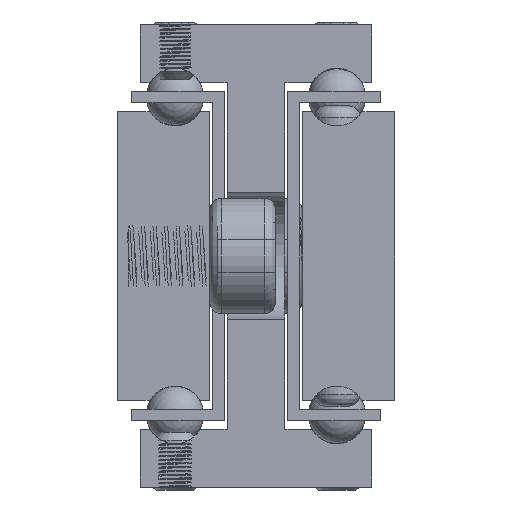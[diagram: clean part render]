
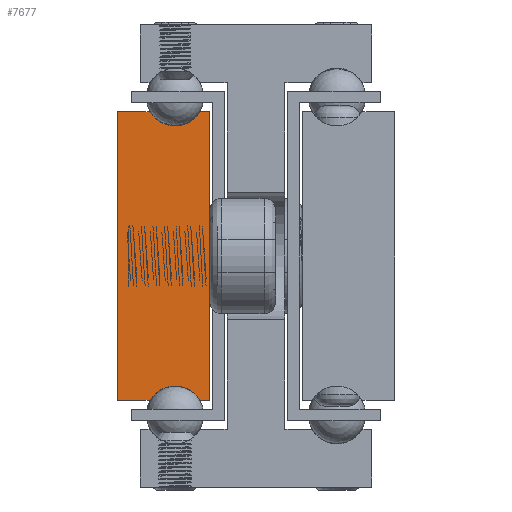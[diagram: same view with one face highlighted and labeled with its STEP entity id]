
A CAD part, front view. The second image highlights one B-rep face of the part: STEP entity #7677.
In plain terms, the highlighted planar face has unit normal (0, -1, 0).
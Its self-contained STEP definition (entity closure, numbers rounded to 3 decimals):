
#502=LINE('',#10724,#1192);
#505=LINE('',#10730,#1195);
#509=LINE('',#10742,#1199);
#512=LINE('',#10748,#1202);
#515=LINE('',#10754,#1205);
#519=LINE('',#10764,#1209);
#1192=VECTOR('',#8834,1.);
#1195=VECTOR('',#8839,1.);
#1199=VECTOR('',#8851,1.);
#1202=VECTOR('',#8856,1.);
#1205=VECTOR('',#8861,1.);
#1209=VECTOR('',#8873,1.);
#1887=PLANE('',#8229);
#2343=FACE_OUTER_BOUND('',#2829,.T.);
#2829=EDGE_LOOP('',(#5528,#5529,#5530,#5531,#5532,#5533,#5534,#5535));
#3445=CIRCLE('',#8220,2.5);
#3447=CIRCLE('',#8226,2.5);
#3628=VERTEX_POINT('',#10721);
#3629=VERTEX_POINT('',#10723);
#3631=VERTEX_POINT('',#10729);
#3633=VERTEX_POINT('',#10735);
#3635=VERTEX_POINT('',#10741);
#3637=VERTEX_POINT('',#10747);
#3639=VERTEX_POINT('',#10753);
#3641=VERTEX_POINT('',#10759);
#4418=EDGE_CURVE('',#3629,#3628,#502,.T.);
#4421=EDGE_CURVE('',#3631,#3629,#505,.T.);
#4424=EDGE_CURVE('',#3633,#3631,#3445,.T.);
#4427=EDGE_CURVE('',#3635,#3633,#509,.T.);
#4430=EDGE_CURVE('',#3637,#3635,#512,.T.);
#4433=EDGE_CURVE('',#3639,#3637,#515,.T.);
#4436=EDGE_CURVE('',#3641,#3639,#3447,.T.);
#4439=EDGE_CURVE('',#3628,#3641,#519,.T.);
#5528=ORIENTED_EDGE('',*,*,#4439,.T.);
#5529=ORIENTED_EDGE('',*,*,#4436,.T.);
#5530=ORIENTED_EDGE('',*,*,#4433,.T.);
#5531=ORIENTED_EDGE('',*,*,#4430,.T.);
#5532=ORIENTED_EDGE('',*,*,#4427,.T.);
#5533=ORIENTED_EDGE('',*,*,#4424,.T.);
#5534=ORIENTED_EDGE('',*,*,#4421,.T.);
#5535=ORIENTED_EDGE('',*,*,#4418,.T.);
#7677=ADVANCED_FACE('',(#2343),#1887,.T.);
#8220=AXIS2_PLACEMENT_3D('',#10736,#8845,#8846);
#8226=AXIS2_PLACEMENT_3D('',#10760,#8867,#8868);
#8229=AXIS2_PLACEMENT_3D('',#10766,#8876,#8877);
#8834=DIRECTION('',(0.,0.,-1.));
#8839=DIRECTION('',(-1.,0.,0.));
#8845=DIRECTION('center_axis',(0.,1.,0.));
#8846=DIRECTION('ref_axis',(-0.866,0.,-0.5));
#8851=DIRECTION('',(-1.,0.,0.));
#8856=DIRECTION('',(0.,0.,1.));
#8861=DIRECTION('',(1.,0.,0.));
#8867=DIRECTION('center_axis',(0.,1.,0.));
#8868=DIRECTION('ref_axis',(0.866,0.,0.5));
#8873=DIRECTION('',(1.,0.,0.));
#8876=DIRECTION('center_axis',(0.,-1.,0.));
#8877=DIRECTION('ref_axis',(1.,0.,0.));
#10721=CARTESIAN_POINT('',(1493.514,1118.378,212.5));
#10723=CARTESIAN_POINT('',(1493.514,1118.378,237.5));
#10724=CARTESIAN_POINT('',(1493.514,1118.378,212.5));
#10729=CARTESIAN_POINT('',(1496.349,1118.378,237.5));
#10730=CARTESIAN_POINT('',(1493.514,1118.378,237.5));
#10735=CARTESIAN_POINT('',(1500.68,1118.378,237.5));
#10736=CARTESIAN_POINT('Origin',(1498.514,1118.378,238.75));
#10741=CARTESIAN_POINT('',(1501.514,1118.378,237.5));
#10742=CARTESIAN_POINT('',(1500.68,1118.378,237.5));
#10747=CARTESIAN_POINT('',(1501.514,1118.378,212.5));
#10748=CARTESIAN_POINT('',(1501.514,1118.378,237.5));
#10753=CARTESIAN_POINT('',(1500.68,1118.378,212.5));
#10754=CARTESIAN_POINT('',(1501.514,1118.378,212.5));
#10759=CARTESIAN_POINT('',(1496.349,1118.378,212.5));
#10760=CARTESIAN_POINT('Origin',(1498.514,1118.378,211.25));
#10764=CARTESIAN_POINT('',(1496.349,1118.378,212.5));
#10766=CARTESIAN_POINT('Origin',(1497.502,1118.378,225.));
